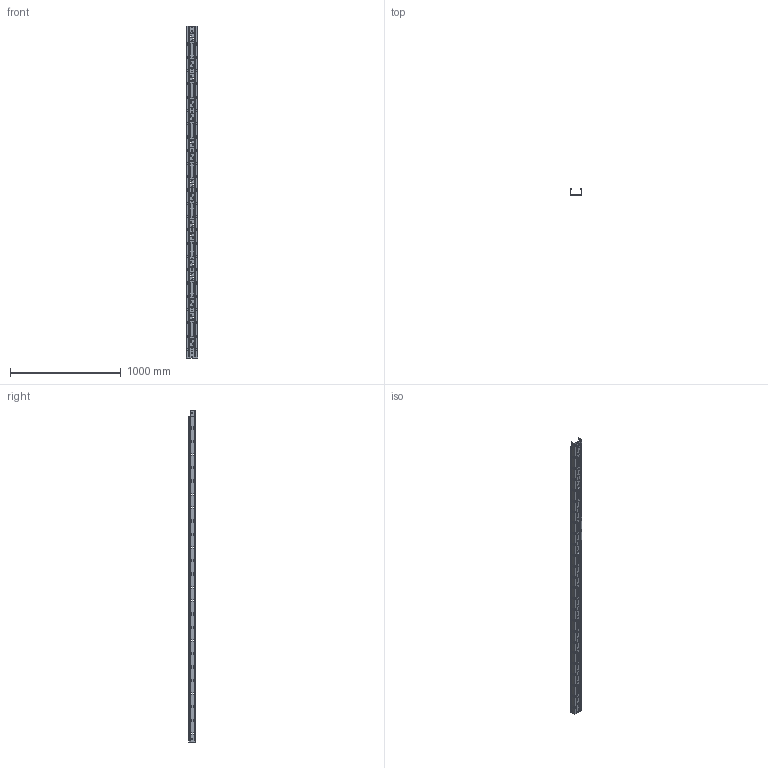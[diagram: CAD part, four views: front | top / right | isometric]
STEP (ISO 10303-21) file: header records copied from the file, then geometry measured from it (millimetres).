
FILE_DESCRIPTION (( 'STEP AP203' ), '1' );
FILE_NAME ('ERE 100x60 100x60.step', '2023-07-27T15:24:55', ( '' ), ( '' ), 'SwSTEP 2.0', 'SolidWorks 2022', '' );
FILE_SCHEMA (( 'CONFIG_CONTROL_DESIGN' ));
Products named in the file (1): ERE 100x60 100x60
Bounding box: 100 x 60.8 x 3000 mm (x, y, z)
Surface area: 1336560.1 mm2 (no closed solid volume)
Topology: 0 solids, 3 shells, 10874 faces, 32134 edges, 21344 vertices
Faces by surface type: plane 10166, cylinder 620, torus 64, cone 24
Entity records: 357107 total; most frequent: CARTESIAN_POINT 64511, ORIENTED_EDGE 64164, DIRECTION 55226, EDGE_CURVE 32134, LINE 30692, VECTOR 30692, VERTEX_POINT 21344, AXIS2_PLACEMENT_3D 12267
